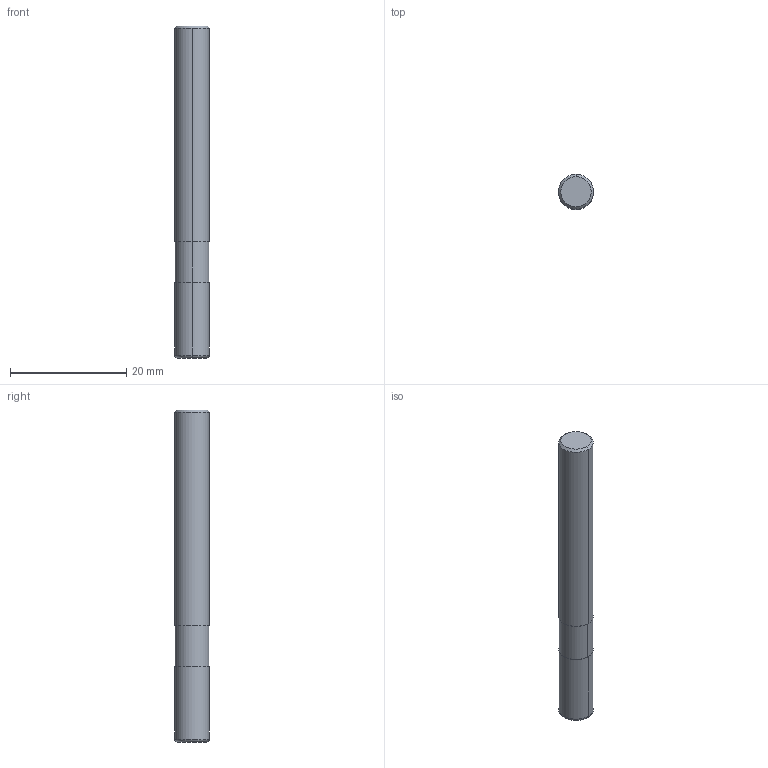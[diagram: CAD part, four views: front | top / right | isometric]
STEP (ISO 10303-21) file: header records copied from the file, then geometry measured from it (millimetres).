
FILE_DESCRIPTION((''),'2;1');
FILE_NAME('DIN4003_82_HEURO','2019-04-10T16:17:10',('automd'),(''),'CREO PARAMETRIC BY PTC INC, 2018400','CREO PARAMETRIC BY PTC INC, 2018400','');
FILE_SCHEMA(('AUTOMOTIVE_DESIGN { 1 0 10303 214 1 1 1 1 }'));
Length unit declared in the file: millimetre
Products named in the file (1): DIN4003_82_HEURO
Bounding box: 6 x 6 x 57 mm (x, y, z)
Volume: 1596.3 mm3; surface area: 1121.5 mm2
Topology: 1 solids, 1 shells, 14 faces, 29 edges, 20 vertices
Faces by surface type: bspline 14
Entity records: 899 total; most frequent: CARTESIAN_POINT 353, DIRECTION 79, ORIENTED_EDGE 52, AXIS2_PLACEMENT_3D 31, PRESENTATION_STYLE_ASSIGNMENT 27, STYLED_ITEM 27, EDGE_CURVE 26, CIRCLE 19
